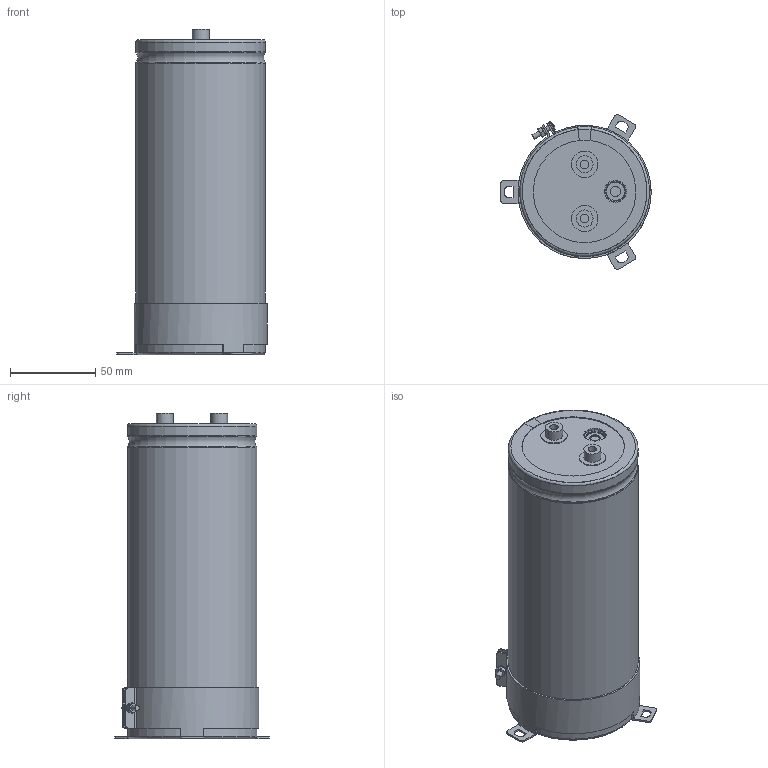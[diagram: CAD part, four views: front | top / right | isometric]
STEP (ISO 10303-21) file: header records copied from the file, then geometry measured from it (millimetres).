
FILE_DESCRIPTION(/* description */ (''),/* implementation_level */ '2;1');
FILE_NAME(/* name */ '76.2x185_Screw.stp',/* time_stamp */ '2017-09-17T13:38:02+09:00',/* author */ (''),/* organization */ (''),/* preprocessor_version */ 'ST-DEVELOPER v16',/* originating_system */ 'SIEMENS PLM Software NX 11.0',/* authorisation */ '');
FILE_SCHEMA (('AUTOMOTIVE_DESIGN { 1 0 10303 214 3 1 1 1 }'));
Length unit declared in the file: millimetre
Products named in the file (1): 76.2x185_Screw
Bounding box: 88.3 x 90.75 x 191 mm (x, y, z)
Volume: 846054.6 mm3; surface area: 162610.5 mm2
Topology: 9 solids, 9 shells, 259 faces, 642 edges, 413 vertices
Faces by surface type: plane 112, cylinder 66, torus 49, cone 31, sphere 1
Full cylindrical faces by diameter (mm): 3 x5, 5 x2, 5.5 x2, 6 x4, 8 x1, 10 x2, 13 x2, 15.5 x2, 75 x2
Entity records: 8534 total; most frequent: CARTESIAN_POINT 2182, DIRECTION 1296, ORIENTED_EDGE 1214, EDGE_CURVE 607, AXIS2_PLACEMENT_3D 541, VERTEX_POINT 408, EDGE_LOOP 317, CIRCLE 281
